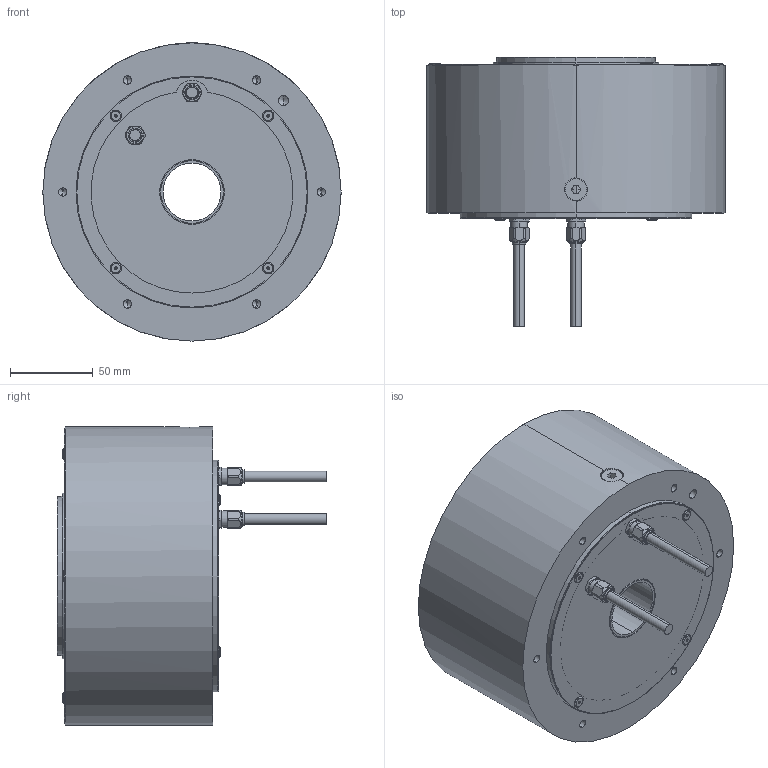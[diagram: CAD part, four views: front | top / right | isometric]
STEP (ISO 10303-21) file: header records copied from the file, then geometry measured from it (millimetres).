
FILE_DESCRIPTION (( 'STEP AP214' ), '1' );
FILE_NAME ('ND180-95-LS(ABS).step', '2025-03-21T05:58:54', ( '' ), ( '' ), 'SwSTEP 2.0', 'SolidWorks 2024', '' );
FILE_SCHEMA (( 'AUTOMOTIVE_DESIGN' ));
Length unit declared in the file: millimetre
Products named in the file (1): ND180-95-LS(ABS)
Bounding box: 180 x 162.8 x 180 mm (x, y, z)
Surface area: 251419.9 mm2 (no closed solid volume)
Topology: 0 solids, 21 shells, 667 faces, 1672 edges, 1042 vertices
Faces by surface type: cylinder 402, cone 130, plane 95, sphere 20, torus 20
Entity records: 21181 total; most frequent: CARTESIAN_POINT 5004, DIRECTION 3486, ORIENTED_EDGE 3206, EDGE_CURVE 1604, AXIS2_PLACEMENT_3D 1455, VERTEX_POINT 1042, EDGE_LOOP 807, CIRCLE 787
